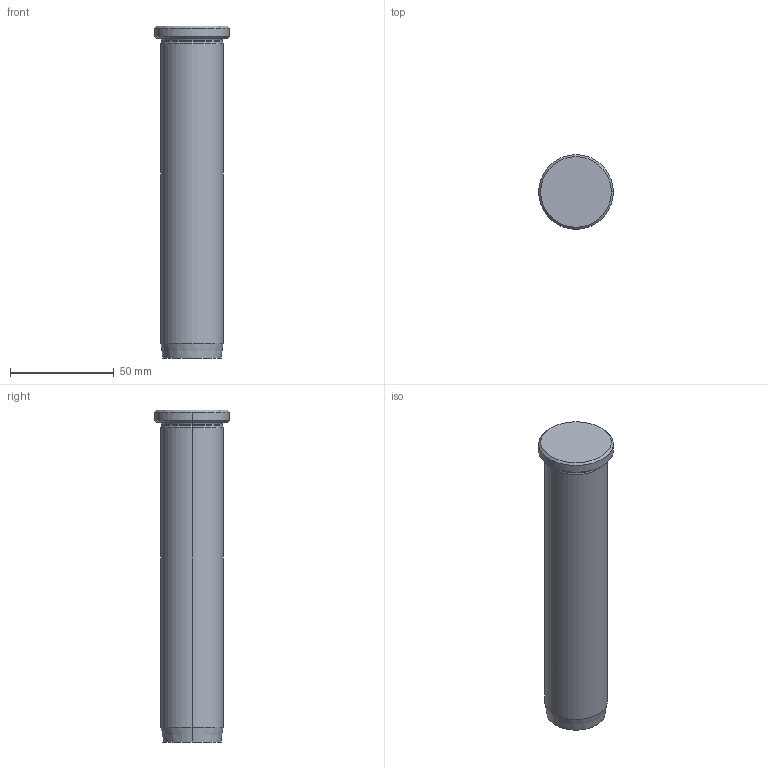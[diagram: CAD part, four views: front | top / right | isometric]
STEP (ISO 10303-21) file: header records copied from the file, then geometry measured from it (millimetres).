
FILE_DESCRIPTION (( 'STEP AP214' ), '1' );
FILE_NAME ('BR012-30x160.STEP', '2020-02-05T17:23:38', ( 'August' ), ( '' ), 'SwSTEP 2.0', 'SolidWorks 2018', '' );
FILE_SCHEMA (( 'AUTOMOTIVE_DESIGN' ));
Length unit declared in the file: millimetre
Products named in the file (1): BR012-30x160
Bounding box: 36 x 36 x 160 mm (x, y, z)
Volume: 114493.5 mm3; surface area: 16984.8 mm2
Topology: 1 solids, 1 shells, 21 faces, 40 edges, 22 vertices
Faces by surface type: cone 8, cylinder 6, torus 4, plane 3
Entity records: 562 total; most frequent: DIRECTION 110, CARTESIAN_POINT 84, ORIENTED_EDGE 80, AXIS2_PLACEMENT_3D 48, EDGE_CURVE 40, CIRCLE 26, VERTEX_POINT 22, EDGE_LOOP 22
